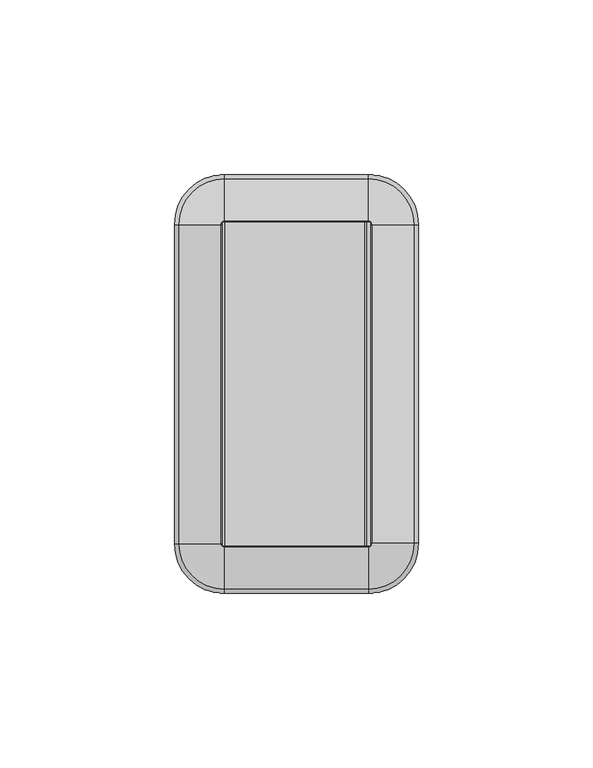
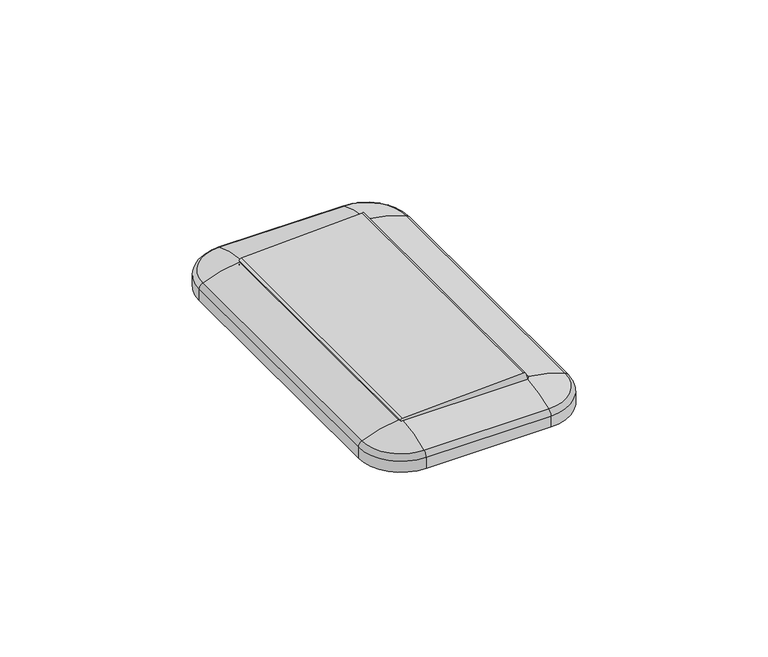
"""IFC4 building model written with IfcOpenShell, lengths in millimetres: switching device geometry, Light-Swich_03 : Light-Swich."""

from ifc_helpers import new_model, si_unit, point, frame, frame_2d, origin, place, context, project, spatial, polyline, circle_curve, ellipse_curve, trimmed, segment, composite_curve, outline, extrude, source, transform, mapped, element, save
from ifc_brep_helpers import plane_surface, cylinder_surface, revolved_surface, advanced_brep


def switching_device_fa800b91(model_context):
    return source(origin(), model_context, "Body", "SolidModel", [
        extrude(outline(composite_curve([segment(trimmed(circle_curve(frame_2d((8.6802961, -20.6059784)), 0.5940229), [point((9.2737235, -20.6325707))], [point((8.6802961, -21.2000012))], False, "CARTESIAN"), True, "CONTINUOUS"), segment(polyline([(8.6802961, -21.2000012), (7.1482968, -21.2000012), (7.1482968, 21.1999989), (10.6242525, 20.232187)]), True, "CONTINUOUS"), segment(trimmed(circle_curve(frame_2d((10.4580929, 19.6354146)), 0.6194726), [point((10.6242525, 20.232187))], [point((11.0769445, 19.607683))], False, "CARTESIAN"), True, "CONTINUOUS"), segment(polyline([(11.0769445, 19.607683), (9.2737235, -20.6325707)]), True, "CONTINUOUS")], self_intersect=False)), frame((0.0, -46.3288069, 0.0), z_axis=(0.0, 1.0, 0.0), x_axis=(0.0, 0.0, 1.0)), (0.0, 0.0, 1.0), 92.657156),
        advanced_brep(
        [(20.6774918, 59.999795, 3.8011192), (35.0000095, 45.6772772, 3.8011192), (35.0000095, 45.6772772, 0.0), (20.6774918, 59.999795, 0.0), (20.6774918, 58.7903489, 5.5853718), (33.7905635, 45.6772772, 5.5853718), (20.6774918, 46.5772772, 8.7072372), (21.5774918, 45.6772772, 8.7072372), (20.6774918, 46.3283491, 5.7000172), (21.3285637, 45.6772772, 5.7000172), (-20.6774918, 59.999795, 0.0), (-20.6774918, 59.999795, 3.8011192), (-20.6774918, 58.7903489, 5.5853718), (-20.6774918, 46.5772772, 8.7072372), (-20.6774918, 46.3283491, 5.7000172), (-35.0000095, 45.6772772, 0.0), (-35.0000095, 45.6772772, 3.8011192), (-33.7905635, 45.6772772, 5.5853718), (-21.5774918, 45.6772772, 8.7072372), (-21.3285637, 45.6772772, 5.7000172), (-35.0000095, -45.7005967, 0.0), (-35.0000095, -45.7005967, 3.8011192), (-33.7905635, -45.7005967, 5.5853718), (-21.5774918, -45.7005967, 8.7072372), (-21.3285637, -45.7005967, 5.7000172), (-20.7003536, -60.0002527, 0.0), (-20.7003536, -60.0002527, 3.8011192), (-20.7003536, -58.7908067, 5.5853718), (-20.7003536, -46.5777349, 8.7072372), (-20.7003536, -46.3288069, 5.7000172), (20.6774918, -60.0002527, 0.0), (20.6774918, -60.0002527, 3.8011192), (20.6774918, -58.7908067, 5.5853718), (20.6774918, -46.5777349, 8.7072372), (20.6774918, -46.3288069, 5.7000172), (35.0000095, -45.6777349, 0.0), (35.0000095, -45.6777349, 3.8011192), (33.7905635, -45.6777349, 5.5853718), (21.5774918, -45.6777349, 8.7072372), (21.3285637, -45.6777349, 5.7000172)],
        [
            (0, 1, circle_curve(frame((20.6774918, 45.6772772, 3.8011192), z_axis=(0.0, 0.0, -1.0), x_axis=(1.0, 0.0, 0.0)), 14.3225178)),
            (1, 2),
            (2, 3, circle_curve(frame((20.6774918, 45.6772772, 0.0), z_axis=(0.0, 0.0, 1.0), x_axis=(1.0, 0.0, 0.0)), 14.3225178)),
            (3, 0),
            (0, 4, circle_curve(frame((20.6774918, 58.0789499, 3.8011192), z_axis=(1.0, 0.0, 0.0), x_axis=(0.0, 1.0, 0.0)), 1.9208451)),
            (4, 5, circle_curve(frame((20.6774918, 45.6772772, 5.5853718), z_axis=(0.0, 0.0, -1.0), x_axis=(1.0, 0.0, 0.0)), 13.1130717)),
            (5, 1, circle_curve(frame((33.0791644, 45.6772772, 3.8011192), z_axis=(0.0, 1.0, 0.0), x_axis=(1.0, 0.0, 0.0)), 1.9208451)),
            (4, 6, circle_curve(frame((20.6774918, 44.4811113, -24.9435429), z_axis=(1.0, 0.0, 0.0), x_axis=(0.0, 1.0, 0.0)), 33.7160039)),
            (6, 7, circle_curve(frame((20.6774918, 45.6772772, 8.7072372), z_axis=(0.0, 0.0, -1.0), x_axis=(1.0, 0.0, 0.0)), 0.9)),
            (7, 5, circle_curve(frame((19.4813258, 45.6772772, -24.9435429), z_axis=(0.0, 1.0, 0.0), x_axis=(1.0, 0.0, 0.0)), 33.7160039)),
            (6, 8),
            (8, 9, circle_curve(frame((20.6774918, 45.6772772, 5.7000172), z_axis=(0.0, 0.0, -1.0), x_axis=(1.0, 0.0, 0.0)), 0.6510719)),
            (9, 7),
            (3, 10),
            (10, 11),
            (11, 0),
            (11, 12, circle_curve(frame((-20.6774918, 58.0789499, 3.8011192), z_axis=(1.0, 0.0, 0.0), x_axis=(0.0, 1.0, 0.0)), 1.9208451)),
            (12, 4),
            (12, 13, circle_curve(frame((-20.6774918, 44.4811113, -24.9435429), z_axis=(1.0, 0.0, 0.0), x_axis=(0.0, 1.0, 0.0)), 33.7160039)),
            (13, 6),
            (13, 14),
            (14, 8),
            (10, 15, circle_curve(frame((-20.6774918, 45.6772772, 0.0), z_axis=(0.0, 0.0, 1.0), x_axis=(0.0, 1.0, 0.0)), 14.3225178)),
            (15, 16),
            (16, 11, circle_curve(frame((-20.6774918, 45.6772772, 3.8011192), z_axis=(0.0, 0.0, -1.0), x_axis=(0.0, 1.0, 0.0)), 14.3225178)),
            (16, 17, circle_curve(frame((-33.0791644, 45.6772772, 3.8011192), z_axis=(0.0, 1.0, 0.0), x_axis=(-1.0, 0.0, 0.0)), 1.9208451)),
            (17, 12, circle_curve(frame((-20.6774918, 45.6772772, 5.5853718), z_axis=(0.0, 0.0, -1.0), x_axis=(0.0, 1.0, 0.0)), 13.1130717)),
            (17, 18, circle_curve(frame((-19.4813258, 45.6772772, -24.9435429), z_axis=(0.0, 1.0, 0.0), x_axis=(-1.0, 0.0, 0.0)), 33.7160039)),
            (18, 13, circle_curve(frame((-20.6774918, 45.6772772, 8.7072372), z_axis=(0.0, 0.0, -1.0), x_axis=(0.0, 1.0, 0.0)), 0.9)),
            (18, 19),
            (19, 14, circle_curve(frame((-20.6774918, 45.6772772, 5.7000172), z_axis=(0.0, 0.0, -1.0), x_axis=(0.0, 1.0, 0.0)), 0.6510719)),
            (15, 20),
            (20, 21),
            (21, 16),
            (21, 22, circle_curve(frame((-33.0791644, -45.7005967, 3.8011192), z_axis=(0.0, 1.0, 0.0), x_axis=(-1.0, 0.0, 0.0)), 1.9208451)),
            (22, 17),
            (22, 23, circle_curve(frame((-19.4813258, -45.7005967, -24.9435429), z_axis=(0.0, 1.0, 0.0), x_axis=(-1.0, 0.0, 0.0)), 33.7160039)),
            (23, 18),
            (23, 24),
            (24, 19),
            (20, 25, circle_curve(frame((-20.7003536, -45.7005967, 0.0), z_axis=(0.0, 0.0, 1.0), x_axis=(-1.0, 0.0, 0.0)), 14.299656)),
            (25, 26),
            (26, 21, circle_curve(frame((-20.7003536, -45.7005967, 3.8011192), z_axis=(0.0, 0.0, -1.0), x_axis=(-1.0, 0.0, 0.0)), 14.299656)),
            (26, 27, circle_curve(frame((-20.7003536, -58.0794076, 3.8011192), z_axis=(-1.0, 0.0, 0.0), x_axis=(0.0, -1.0, 0.0)), 1.9208451)),
            (27, 22, circle_curve(frame((-20.7003536, -45.7005967, 5.5853718), z_axis=(0.0, 0.0, -1.0), x_axis=(-1.0, 0.0, 0.0)), 13.0902099)),
            (27, 28, circle_curve(frame((-20.7003536, -44.481569, -24.9435429), z_axis=(-1.0, 0.0, 0.0), x_axis=(0.0, -1.0, 0.0)), 33.7160039)),
            (28, 23, circle_curve(frame((-20.7003536, -45.7005967, 8.7072372), z_axis=(0.0, 0.0, -1.0), x_axis=(-1.0, 0.0, 0.0)), 0.8771382)),
            (28, 29),
            (29, 24, circle_curve(frame((-20.7003536, -45.7005967, 5.7000172), z_axis=(0.0, 0.0, -1.0), x_axis=(-1.0, 0.0, 0.0)), 0.6282101)),
            (25, 30),
            (30, 31),
            (31, 26),
            (31, 32, circle_curve(frame((20.6774918, -58.0794076, 3.8011192), z_axis=(-1.0, 0.0, 0.0), x_axis=(0.0, -1.0, 0.0)), 1.9208451)),
            (32, 27),
            (32, 33, circle_curve(frame((20.6774918, -44.481569, -24.9435429), z_axis=(-1.0, 0.0, 0.0), x_axis=(0.0, -1.0, 0.0)), 33.7160039)),
            (33, 28),
            (33, 34),
            (34, 29),
            (30, 35, circle_curve(frame((20.6774918, -45.6777349, 0.0), z_axis=(0.0, 0.0, 1.0), x_axis=(0.0, -1.0, 0.0)), 14.3225178)),
            (35, 36),
            (36, 31, circle_curve(frame((20.6774918, -45.6777349, 3.8011192), z_axis=(0.0, 0.0, -1.0), x_axis=(0.0, -1.0, 0.0)), 14.3225178)),
            (36, 37, circle_curve(frame((33.0791644, -45.6777349, 3.8011192), z_axis=(0.0, -1.0, 0.0), x_axis=(1.0, 0.0, 0.0)), 1.9208451)),
            (37, 32, circle_curve(frame((20.6774918, -45.6777349, 5.5853718), z_axis=(0.0, 0.0, -1.0), x_axis=(0.0, -1.0, 0.0)), 13.1130717)),
            (37, 38, circle_curve(frame((19.4813258, -45.6777349, -24.9435429), z_axis=(0.0, -1.0, 0.0), x_axis=(1.0, 0.0, 0.0)), 33.7160039)),
            (38, 33, circle_curve(frame((20.6774918, -45.6777349, 8.7072372), z_axis=(0.0, 0.0, -1.0), x_axis=(0.0, -1.0, 0.0)), 0.9)),
            (38, 39),
            (39, 34, circle_curve(frame((20.6774918, -45.6777349, 5.7000172), z_axis=(0.0, 0.0, -1.0), x_axis=(0.0, -1.0, 0.0)), 0.6510719)),
            (1, 36),
            (35, 2),
            (5, 37),
            (7, 38),
            (9, 39),
        ],
        [
            cylinder_surface(frame((20.6774918, 45.6772772, 0.0), z_axis=(0.0, 0.0, 1.0), x_axis=(1.0, 0.0, 0.0)), 14.3225178),
            revolved_surface(trimmed(ellipse_curve(frame((33.0791644, 45.6772772, 3.8011192), z_axis=(0.0, -1.0, 0.0), x_axis=(1.0, 0.0, 0.0)), 1.9208451, 1.9208451), [point((35.0000095, 45.6772772, 3.8011192))], [point((33.7905635, 45.6772772, 5.5853718))], True, "CARTESIAN"), (20.6774918, 45.6772772, 0.0), (0.0, 0.0, 1.0)),
            revolved_surface(trimmed(ellipse_curve(frame((19.4813258, 45.6772772, -24.9435429), z_axis=(0.0, -1.0, 0.0), x_axis=(1.0, 0.0, 0.0)), 33.7160039, 33.7160039), [point((33.7905635, 45.6772772, 5.5853718))], [point((21.5774918, 45.6772772, 8.7072372))], True, "CARTESIAN"), (20.6774918, 45.6772772, 0.0), (0.0, 0.0, 1.0)),
            revolved_surface(polyline([(21.5774918, 45.6772772, 8.7072372), (21.3285637, 45.6772772, 5.7000172)]), (20.6774918, 45.6772772, 0.0), (0.0, 0.0, 1.0)),
            plane_surface(frame((20.6774918, 59.999795, 0.0), z_axis=(0.0, 1.0, 0.0), x_axis=(-1.0, 0.0, 0.0))),
            cylinder_surface(frame((20.6774918, 58.0789499, 3.8011192), z_axis=(1.0, 0.0, 0.0), x_axis=(0.0, 1.0, 0.0)), 1.9208451),
            cylinder_surface(frame((20.6774918, 44.4811113, -24.9435429), z_axis=(1.0, 0.0, 0.0), x_axis=(0.0, 1.0, 0.0)), 33.7160039),
            plane_surface(frame((20.6774918, 46.5772772, 8.7072372), z_axis=(0.0, -0.9965915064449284, 0.08249466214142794), x_axis=(-1.0, 0.0, 0.0))),
            cylinder_surface(frame((-20.6774918, 45.6772772, 0.0), z_axis=(0.0, 0.0, 1.0), x_axis=(0.0, 1.0, 0.0)), 14.3225178),
            revolved_surface(trimmed(ellipse_curve(frame((-20.6774918, 58.0789499, 3.8011192), z_axis=(1.0, 0.0, 0.0), x_axis=(0.0, 1.0, 0.0)), 1.9208451, 1.9208451), [point((-20.6774918, 59.999795, 3.8011192))], [point((-20.6774918, 58.7903489, 5.5853718))], True, "CARTESIAN"), (-20.6774918, 45.6772772, 0.0), (0.0, 0.0, 1.0)),
            revolved_surface(trimmed(ellipse_curve(frame((-20.6774918, 44.4811113, -24.9435429), z_axis=(1.0, 0.0, 0.0), x_axis=(0.0, 1.0, 0.0)), 33.7160039, 33.7160039), [point((-20.6774918, 58.7903489, 5.5853718))], [point((-20.6774918, 46.5772772, 8.7072372))], True, "CARTESIAN"), (-20.6774918, 45.6772772, 0.0), (0.0, 0.0, 1.0)),
            revolved_surface(polyline([(-20.6774918, 46.5772772, 8.7072372), (-20.6774918, 46.3283491, 5.7000172)]), (-20.6774918, 45.6772772, 0.0), (0.0, 0.0, 1.0)),
            plane_surface(frame((-35.0000095, 45.6772772, 0.0), z_axis=(-1.0, 0.0, 0.0), x_axis=(0.0, -1.0, 0.0))),
            cylinder_surface(frame((-33.0791644, 45.6772772, 3.8011192), z_axis=(0.0, 1.0, 0.0), x_axis=(-1.0, 0.0, 0.0)), 1.9208451),
            cylinder_surface(frame((-19.4813258, 45.6772772, -24.9435429), z_axis=(0.0, 1.0, 0.0), x_axis=(-1.0, 0.0, 0.0)), 33.7160039),
            plane_surface(frame((-21.5774918, 45.6772772, 8.7072372), z_axis=(0.9965915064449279, 0.0, 0.08249466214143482), x_axis=(0.0, -1.0, 0.0))),
            cylinder_surface(frame((-20.7003536, -45.7005967, 0.0), z_axis=(0.0, 0.0, 1.0), x_axis=(-1.0, 0.0, 0.0)), 14.299656),
            revolved_surface(trimmed(ellipse_curve(frame((-33.0791644, -45.7005967, 3.8011192), z_axis=(0.0, 1.0, 0.0), x_axis=(-1.0, 0.0, 0.0)), 1.9208451, 1.9208451), [point((-35.0000095, -45.7005967, 3.8011192))], [point((-33.7905635, -45.7005967, 5.5853718))], True, "CARTESIAN"), (-20.7003536, -45.7005967, 0.0), (0.0, 0.0, 1.0)),
            revolved_surface(trimmed(ellipse_curve(frame((-19.4813258, -45.7005967, -24.9435429), z_axis=(0.0, 1.0, 0.0), x_axis=(-1.0, 0.0, 0.0)), 33.7160039, 33.7160039), [point((-33.7905635, -45.7005967, 5.5853718))], [point((-21.5774918, -45.7005967, 8.7072372))], True, "CARTESIAN"), (-20.7003536, -45.7005967, 0.0), (0.0, 0.0, 1.0)),
            revolved_surface(polyline([(-21.5774918, -45.7005967, 8.7072372), (-21.3285637, -45.7005967, 5.7000172)]), (-20.7003536, -45.7005967, 0.0), (0.0, 0.0, 1.0)),
            plane_surface(frame((-20.7003536, -60.0002527, 0.0), z_axis=(0.0, -1.0, 0.0), x_axis=(1.0, 0.0, 0.0))),
            cylinder_surface(frame((-20.7003536, -58.0794076, 3.8011192), z_axis=(-1.0, 0.0, 0.0), x_axis=(0.0, -1.0, 0.0)), 1.9208451),
            cylinder_surface(frame((-20.7003536, -44.481569, -24.9435429), z_axis=(-1.0, 0.0, 0.0), x_axis=(0.0, -1.0, 0.0)), 33.7160039),
            plane_surface(frame((-20.7003536, -46.5777349, 8.7072372), z_axis=(0.0, 0.9965915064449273, 0.08249466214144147), x_axis=(1.0, 0.0, 0.0))),
            cylinder_surface(frame((20.6774918, -45.6777349, 0.0), z_axis=(0.0, 0.0, 1.0), x_axis=(0.0, -1.0, 0.0)), 14.3225178),
            revolved_surface(trimmed(ellipse_curve(frame((20.6774918, -58.0794076, 3.8011192), z_axis=(-1.0, 0.0, 0.0), x_axis=(0.0, -1.0, 0.0)), 1.9208451, 1.9208451), [point((20.6774918, -60.0002527, 3.8011192))], [point((20.6774918, -58.7908067, 5.5853718))], True, "CARTESIAN"), (20.6774918, -45.6777349, 0.0), (0.0, 0.0, 1.0)),
            revolved_surface(trimmed(ellipse_curve(frame((20.6774918, -44.481569, -24.9435429), z_axis=(-1.0, 0.0, 0.0), x_axis=(0.0, -1.0, 0.0)), 33.7160039, 33.7160039), [point((20.6774918, -58.7908067, 5.5853718))], [point((20.6774918, -46.5777349, 8.7072372))], True, "CARTESIAN"), (20.6774918, -45.6777349, 0.0), (0.0, 0.0, 1.0)),
            revolved_surface(polyline([(20.6774918, -46.5777349, 8.7072372), (20.6774918, -46.3288069, 5.7000172)]), (20.6774918, -45.6777349, 0.0), (0.0, 0.0, 1.0)),
            plane_surface(frame((35.0000095, -45.6777349, 0.0), z_axis=(1.0, 0.0, 0.0), x_axis=(0.0, 1.0, 0.0))),
            cylinder_surface(frame((33.0791644, -45.6777349, 3.8011192), z_axis=(0.0, -1.0, 0.0), x_axis=(1.0, 0.0, 0.0)), 1.9208451),
            cylinder_surface(frame((19.4813258, -45.6777349, -24.9435429), z_axis=(0.0, -1.0, 0.0), x_axis=(1.0, 0.0, 0.0)), 33.7160039),
            plane_surface(frame((21.5774918, -45.6777349, 8.7072372), z_axis=(-0.9965915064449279, 0.0, 0.08249466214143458), x_axis=(0.0, 1.0, 0.0))),
            plane_surface(frame((21.3285637, -45.6777349, 0.0), z_axis=(0.0, 0.0, -1.0), x_axis=(0.0, 1.0, 0.0))),
            plane_surface(frame((-20.6774918, 50.8179409, 5.7000172), z_axis=(0.0, 0.0, 1.0), x_axis=(-1.0, 0.0, 0.0))),
        ],
        [
            (0, [[1, 2, 3, 4]]),
            (1, [[-1, 5, 6, 7]]),
            (2, [[-6, 8, 9, 10]]),
            (3, [[-9, 11, 12, 13]]),
            (4, [[-4, 14, 15, 16]]),
            (5, [[-5, -16, 17, 18]]),
            (6, [[-8, -18, 19, 20]]),
            (7, [[-11, -20, 21, 22]]),
            (8, [[-15, 23, 24, 25]]),
            (9, [[-17, -25, 26, 27]]),
            (10, [[-19, -27, 28, 29]]),
            (11, [[-21, -29, 30, 31]]),
            (12, [[-24, 32, 33, 34]]),
            (13, [[-26, -34, 35, 36]]),
            (14, [[-28, -36, 37, 38]]),
            (15, [[-30, -38, 39, 40]]),
            (16, [[-33, 41, 42, 43]]),
            (17, [[-35, -43, 44, 45]]),
            (18, [[-37, -45, 46, 47]]),
            (19, [[-39, -47, 48, 49]]),
            (20, [[-42, 50, 51, 52]]),
            (21, [[-44, -52, 53, 54]]),
            (22, [[-46, -54, 55, 56]]),
            (23, [[-48, -56, 57, 58]]),
            (24, [[-51, 59, 60, 61]]),
            (25, [[-53, -61, 62, 63]]),
            (26, [[-55, -63, 64, 65]]),
            (27, [[-57, -65, 66, 67]]),
            (28, [[-2, 68, -60, 69]]),
            (29, [[-7, 70, -62, -68]]),
            (30, [[-10, 71, -64, -70]]),
            (31, [[-13, 72, -66, -71]]),
            (32, [[-3, -69, -59, -50, -41, -32, -23, -14]]),
            (33, [[-12, -22, -31, -40, -49, -58, -67, -72]]),
        ],
    ),
    ])


if __name__ == "__main__":
    model = new_model("IFC4")
    model_context = context("Model", 3, world=origin())
    ifc_project = project(units=[si_unit("LENGTHUNIT", "METRE", prefix="MILLI")], contexts=[model_context])
    site = spatial("IfcSite", under=ifc_project)
    building = spatial("IfcBuilding", under=site)
    placement = place(None, origin())
    switching_device_shape = switching_device_fa800b91(model_context)
    element("IfcSwitchingDevice", 1, ObjectType="Light-Swich_03 : Light-Swich", at=placement, inside=building, context=model_context, shape_type="MappedRepresentation", body=[
        mapped(switching_device_shape, transform((0.0, 0.0, 0.0), x_axis=(1.0, 0.0, 0.0), y_axis=(0.0, 1.0, 0.0), z_axis=(0.0, 0.0, 1.0))),
    ])
    save(model, "model.ifc")
